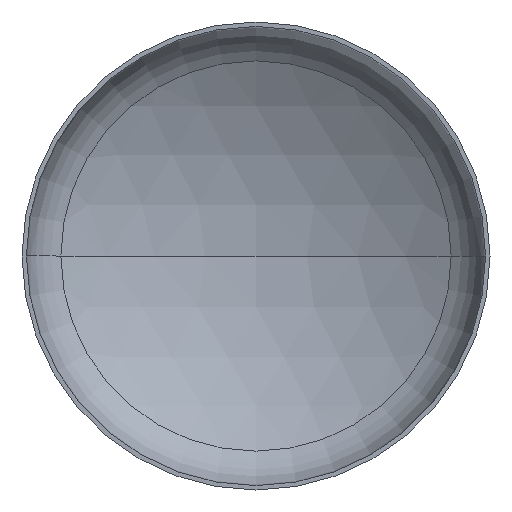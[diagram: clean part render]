
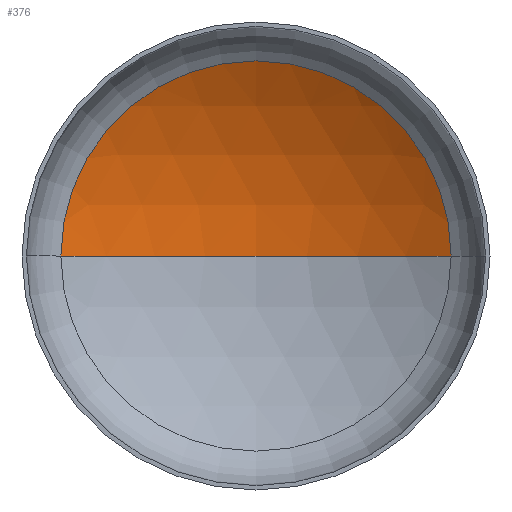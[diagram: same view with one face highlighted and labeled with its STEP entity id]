
A CAD part, front view. The second image highlights one B-rep face of the part: STEP entity #376.
In plain terms, the highlighted spherical face has radius 4400 mm.
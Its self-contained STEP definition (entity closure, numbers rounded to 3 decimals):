
#43 = VERTEX_POINT ( 'NONE', #348 ) ;
#45 = AXIS2_PLACEMENT_3D ( 'NONE', #272, #267, #271 ) ;
#54 = FACE_OUTER_BOUND ( 'NONE', #107, .T. ) ;
#77 = CIRCLE ( 'NONE', #45, 2293.446 ) ;
#88 = ORIENTED_EDGE ( 'NONE', *, *, #269, .T. ) ;
#93 = CIRCLE ( 'NONE', #344, 4400. ) ;
#104 = ORIENTED_EDGE ( 'NONE', *, *, #249, .F. ) ;
#107 = EDGE_LOOP ( 'NONE', ( #104, #88, #231 ) ) ;
#191 = VERTEX_POINT ( 'NONE', #193 ) ;
#193 = CARTESIAN_POINT ( 'NONE',  ( -2293.446, 841.133, 0. ) ) ;
#213 = CARTESIAN_POINT ( 'NONE',  ( 0., -2913.878, 0. ) ) ;
#223 = DIRECTION ( 'NONE',  ( 1., 0., 0. ) ) ;
#225 = DIRECTION ( 'NONE',  ( 0., 0., 1. ) ) ;
#231 = ORIENTED_EDGE ( 'NONE', *, *, #285, .T. ) ;
#238 = DIRECTION ( 'NONE',  ( -1., 0., 0. ) ) ;
#249 = EDGE_CURVE ( 'NONE', #43, #191, #93, .T. ) ;
#267 = DIRECTION ( 'NONE',  ( 0., -1., 0. ) ) ;
#269 = EDGE_CURVE ( 'NONE', #43, #400, #405, .T. ) ;
#271 = DIRECTION ( 'NONE',  ( 1., 0., 0. ) ) ;
#272 = CARTESIAN_POINT ( 'NONE',  ( 0., 841.133, 0. ) ) ;
#281 = CARTESIAN_POINT ( 'NONE',  ( 2293.446, 841.133, 0. ) ) ;
#285 = EDGE_CURVE ( 'NONE', #400, #191, #77, .T. ) ;
#300 = DIRECTION ( 'NONE',  ( -1., 0., 0. ) ) ;
#302 = AXIS2_PLACEMENT_3D ( 'NONE', #401, #325, #300 ) ;
#303 = CARTESIAN_POINT ( 'NONE',  ( 0., -2913.878, 0. ) ) ;
#316 = SPHERICAL_SURFACE ( 'NONE', #302, 4400. ) ;
#317 = DIRECTION ( 'NONE',  ( 0., 0., -1. ) ) ;
#325 = DIRECTION ( 'NONE',  ( 0., 0., -1. ) ) ;
#344 = AXIS2_PLACEMENT_3D ( 'NONE', #213, #225, #223 ) ;
#348 = CARTESIAN_POINT ( 'NONE',  ( 0., 1486.122, 0. ) ) ;
#376 = ADVANCED_FACE ( 'NONE', ( #54 ), #316, .F. ) ;
#400 = VERTEX_POINT ( 'NONE', #281 ) ;
#401 = CARTESIAN_POINT ( 'NONE',  ( 0., -2913.878, 0. ) ) ;
#405 = CIRCLE ( 'NONE', #406, 4400. ) ;
#406 = AXIS2_PLACEMENT_3D ( 'NONE', #303, #317, #238 ) ;
